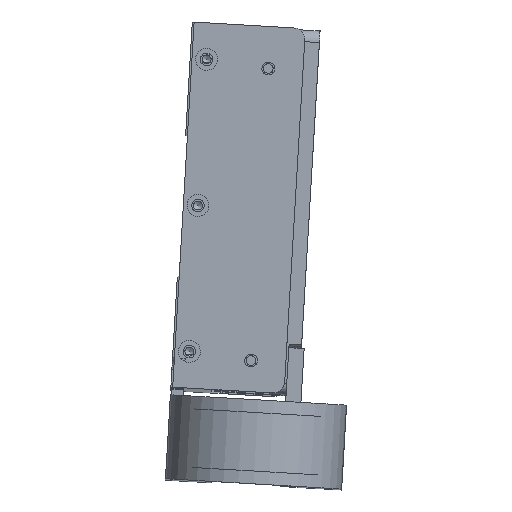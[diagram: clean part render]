
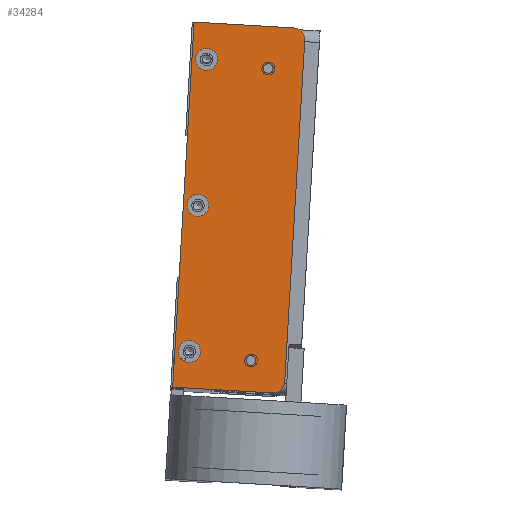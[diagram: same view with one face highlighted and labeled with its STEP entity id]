
A CAD part, top view. The second image highlights one B-rep face of the part: STEP entity #34284.
In plain terms, the highlighted planar face has unit normal (0, 0, 1) as drawn and (0, -1, 0) by its records, which use the part's own axes.
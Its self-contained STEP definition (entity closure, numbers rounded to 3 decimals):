
#1049=PLANE($,#37460);
#2311=FACE_BOUND($,#6355,.T.);
#2312=FACE_BOUND($,#6356,.T.);
#2313=FACE_BOUND($,#6357,.T.);
#2314=FACE_BOUND($,#6358,.T.);
#2315=FACE_BOUND($,#6359,.T.);
#2316=FACE_BOUND($,#6360,.T.);
#6355=EDGE_LOOP($,(#27862));
#6356=EDGE_LOOP($,(#27863));
#6357=EDGE_LOOP($,(#27864));
#6358=EDGE_LOOP($,(#27865));
#6359=EDGE_LOOP($,(#27866));
#6360=EDGE_LOOP($,(#27867,#27868,#27869,#27870,#27871,#27872));
#8817=LINE($,#55273,#11704);
#8820=LINE($,#55289,#11707);
#8821=LINE($,#55291,#11708);
#8822=LINE($,#55293,#11709);
#11704=VECTOR($,#44525,93.65);
#11707=VECTOR($,#44540,27.325);
#11708=VECTOR($,#44541,100.);
#11709=VECTOR($,#44542,27.325);
#14585=CIRCLE($,#37457,3.175);
#14587=CIRCLE($,#37461,3.);
#14588=CIRCLE($,#37462,3.);
#14589=CIRCLE($,#37463,3.);
#14590=CIRCLE($,#37464,1.321);
#14591=CIRCLE($,#37465,1.321);
#14592=CIRCLE($,#37466,3.175);
#16766=VERTEX_POINT($,#55263);
#16767=VERTEX_POINT($,#55264);
#16770=VERTEX_POINT($,#55272);
#16772=VERTEX_POINT($,#55278);
#16773=VERTEX_POINT($,#55280);
#16774=VERTEX_POINT($,#55282);
#16775=VERTEX_POINT($,#55284);
#16776=VERTEX_POINT($,#55286);
#16777=VERTEX_POINT($,#55288);
#16778=VERTEX_POINT($,#55290);
#16779=VERTEX_POINT($,#55292);
#20769=EDGE_CURVE($,#16766,#16767,#14585,.T.);
#20773=EDGE_CURVE($,#16767,#16770,#8817,.T.);
#20776=EDGE_CURVE($,#16772,#16772,#14587,.T.);
#20777=EDGE_CURVE($,#16773,#16773,#14588,.T.);
#20778=EDGE_CURVE($,#16774,#16774,#14589,.T.);
#20779=EDGE_CURVE($,#16775,#16775,#14590,.T.);
#20780=EDGE_CURVE($,#16776,#16776,#14591,.T.);
#20781=EDGE_CURVE($,#16766,#16777,#8820,.T.);
#20782=EDGE_CURVE($,#16777,#16778,#8821,.T.);
#20783=EDGE_CURVE($,#16778,#16779,#8822,.T.);
#20784=EDGE_CURVE($,#16770,#16779,#14592,.T.);
#27862=ORIENTED_EDGE($,*,*,#20776,.T.);
#27863=ORIENTED_EDGE($,*,*,#20777,.T.);
#27864=ORIENTED_EDGE($,*,*,#20778,.T.);
#27865=ORIENTED_EDGE($,*,*,#20779,.T.);
#27866=ORIENTED_EDGE($,*,*,#20780,.T.);
#27867=ORIENTED_EDGE($,*,*,#20769,.F.);
#27868=ORIENTED_EDGE($,*,*,#20781,.T.);
#27869=ORIENTED_EDGE($,*,*,#20782,.T.);
#27870=ORIENTED_EDGE($,*,*,#20783,.T.);
#27871=ORIENTED_EDGE($,*,*,#20784,.F.);
#27872=ORIENTED_EDGE($,*,*,#20773,.F.);
#34284=ADVANCED_FACE($,(#2311,#2312,#2313,#2314,#2315,#2316),#1049,.T.);
#37457=AXIS2_PLACEMENT_3D($,#55265,#44517,#44518);
#37460=AXIS2_PLACEMENT_3D($,#55277,#44528,#44529);
#37461=AXIS2_PLACEMENT_3D($,#55279,#44530,#44531);
#37462=AXIS2_PLACEMENT_3D($,#55281,#44532,#44533);
#37463=AXIS2_PLACEMENT_3D($,#55283,#44534,#44535);
#37464=AXIS2_PLACEMENT_3D($,#55285,#44536,#44537);
#37465=AXIS2_PLACEMENT_3D($,#55287,#44538,#44539);
#37466=AXIS2_PLACEMENT_3D($,#55294,#44543,#44544);
#44517=DIRECTION('center_axis',(0.,1.,0.));
#44518=DIRECTION('ref_axis',(0.707,0.,0.707));
#44525=DIRECTION($,(0.,0.,-1.));
#44528=DIRECTION('center_axis',(0.,-1.,0.));
#44529=DIRECTION('ref_axis',(0.,0.,-1.));
#44530=DIRECTION('center_axis',(0.,1.,0.));
#44531=DIRECTION('ref_axis',(1.,0.,0.));
#44532=DIRECTION('center_axis',(0.,1.,0.));
#44533=DIRECTION('ref_axis',(1.,0.,0.));
#44534=DIRECTION('center_axis',(0.,1.,0.));
#44535=DIRECTION('ref_axis',(1.,0.,0.));
#44536=DIRECTION('center_axis',(0.,1.,0.));
#44537=DIRECTION('ref_axis',(1.,0.,0.));
#44538=DIRECTION('center_axis',(0.,1.,0.));
#44539=DIRECTION('ref_axis',(1.,0.,0.));
#44540=DIRECTION($,(-1.,0.,0.));
#44541=DIRECTION($,(0.,0.,-1.));
#44542=DIRECTION($,(1.,0.,0.));
#44543=DIRECTION('center_axis',(0.,1.,0.));
#44544=DIRECTION('ref_axis',(0.707,0.,-0.707));
#55263=CARTESIAN_POINT('',(12.075,-2.5,50.));
#55264=CARTESIAN_POINT('',(15.25,-2.5,46.825));
#55265=CARTESIAN_POINT('Origin',(12.075,-2.5,46.825));
#55272=CARTESIAN_POINT('',(15.25,-2.5,-46.825));
#55273=CARTESIAN_POINT($,(15.25,-2.5,0.));
#55277=CARTESIAN_POINT('Origin',(15.25,-2.5,0.));
#55278=CARTESIAN_POINT('',(-8.25,-2.5,0.));
#55279=CARTESIAN_POINT('Origin',(-11.25,-2.5,0.));
#55280=CARTESIAN_POINT('',(-8.25,-2.5,40.));
#55281=CARTESIAN_POINT('Origin',(-11.25,-2.5,40.));
#55282=CARTESIAN_POINT('',(-8.25,-2.5,-40.));
#55283=CARTESIAN_POINT('Origin',(-11.25,-2.5,-40.));
#55284=CARTESIAN_POINT('',(7.071,-2.5,38.5));
#55285=CARTESIAN_POINT('Origin',(5.75,-2.5,38.5));
#55286=CARTESIAN_POINT('',(7.037,-2.5,-41.5));
#55287=CARTESIAN_POINT('Origin',(5.716,-2.5,-41.5));
#55288=CARTESIAN_POINT('',(-15.25,-2.5,50.));
#55289=CARTESIAN_POINT($,(15.25,-2.5,50.));
#55290=CARTESIAN_POINT('',(-15.25,-2.5,-50.));
#55291=CARTESIAN_POINT($,(-15.25,-2.5,0.));
#55292=CARTESIAN_POINT('',(12.075,-2.5,-50.));
#55293=CARTESIAN_POINT($,(15.25,-2.5,-50.));
#55294=CARTESIAN_POINT('Origin',(12.075,-2.5,-46.825));
